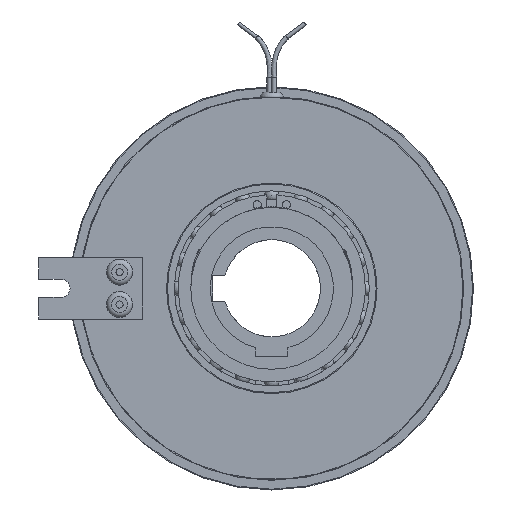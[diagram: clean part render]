
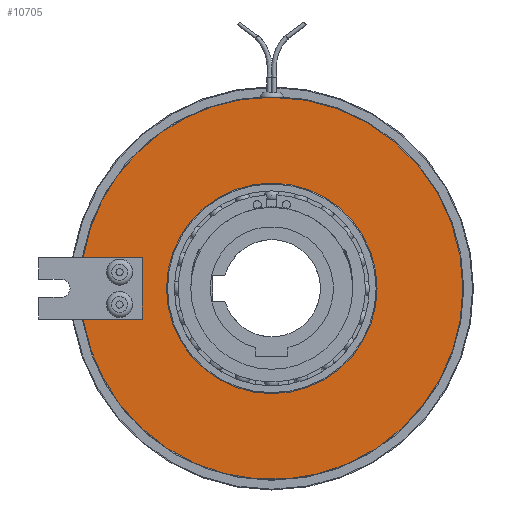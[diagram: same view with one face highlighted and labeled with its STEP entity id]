
A CAD part, left-side view. The second image highlights one B-rep face of the part: STEP entity #10705.
In plain terms, the highlighted planar face has unit normal (-1, 0, 0).
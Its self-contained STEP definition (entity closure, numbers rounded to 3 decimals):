
#621=FACE_BOUND('',#1951,.T.);
#878=PLANE('',#11851);
#1304=FACE_OUTER_BOUND('',#1950,.T.);
#1950=EDGE_LOOP('',(#8781,#8782,#8783,#8784,#8785,#8786));
#1951=EDGE_LOOP('',(#8787,#8788));
#2538=LINE('',#18455,#2996);
#2539=LINE('',#18458,#2997);
#2540=LINE('',#18459,#2998);
#2996=VECTOR('',#14609,10.);
#2997=VECTOR('',#14612,10.);
#2998=VECTOR('',#14613,10.);
#3438=CIRCLE('',#11505,59.);
#3441=CIRCLE('',#11508,59.);
#3680=CIRCLE('',#11852,59.);
#3681=CIRCLE('',#11853,32.5);
#3682=CIRCLE('',#11854,32.5);
#4489=VERTEX_POINT('',#17741);
#4490=VERTEX_POINT('',#17743);
#4492=VERTEX_POINT('',#17747);
#4493=VERTEX_POINT('',#17749);
#4738=VERTEX_POINT('',#18454);
#4739=VERTEX_POINT('',#18457);
#4740=VERTEX_POINT('',#18460);
#4741=VERTEX_POINT('',#18461);
#5826=EDGE_CURVE('',#4490,#4489,#3438,.T.);
#5829=EDGE_CURVE('',#4493,#4492,#3441,.T.);
#6167=EDGE_CURVE('',#4738,#4490,#2538,.T.);
#6168=EDGE_CURVE('',#4489,#4493,#3680,.T.);
#6169=EDGE_CURVE('',#4492,#4739,#2539,.T.);
#6170=EDGE_CURVE('',#4739,#4738,#2540,.T.);
#6171=EDGE_CURVE('',#4740,#4741,#3681,.T.);
#6172=EDGE_CURVE('',#4741,#4740,#3682,.T.);
#8781=ORIENTED_EDGE('',*,*,#6167,.T.);
#8782=ORIENTED_EDGE('',*,*,#5826,.T.);
#8783=ORIENTED_EDGE('',*,*,#6168,.T.);
#8784=ORIENTED_EDGE('',*,*,#5829,.T.);
#8785=ORIENTED_EDGE('',*,*,#6169,.T.);
#8786=ORIENTED_EDGE('',*,*,#6170,.T.);
#8787=ORIENTED_EDGE('',*,*,#6171,.F.);
#8788=ORIENTED_EDGE('',*,*,#6172,.F.);
#10705=ADVANCED_FACE('',(#1304,#621),#878,.T.);
#11505=AXIS2_PLACEMENT_3D('',#17744,#13817,#13818);
#11508=AXIS2_PLACEMENT_3D('',#17750,#13823,#13824);
#11851=AXIS2_PLACEMENT_3D('',#18453,#14607,#14608);
#11852=AXIS2_PLACEMENT_3D('',#18456,#14610,#14611);
#11853=AXIS2_PLACEMENT_3D('',#18462,#14614,#14615);
#11854=AXIS2_PLACEMENT_3D('',#18463,#14616,#14617);
#13817=DIRECTION('center_axis',(-1.,0.,0.));
#13818=DIRECTION('ref_axis',(0.,1.,0.));
#13823=DIRECTION('center_axis',(-1.,0.,0.));
#13824=DIRECTION('ref_axis',(0.,1.,0.));
#14607=DIRECTION('center_axis',(-1.,0.,0.));
#14608=DIRECTION('ref_axis',(0.,0.,
1.));
#14609=DIRECTION('',(0.,1.,0.));
#14610=DIRECTION('center_axis',(-1.,0.,0.));
#14611=DIRECTION('ref_axis',(0.,1.,0.));
#14612=DIRECTION('',(0.,-1.,0.));
#14613=DIRECTION('',(0.,0.,-1.));
#14614=DIRECTION('center_axis',(-1.,0.,0.));
#14615=DIRECTION('ref_axis',(0.,1.,0.));
#14616=DIRECTION('center_axis',(-1.,0.,0.));
#14617=DIRECTION('ref_axis',(0.,1.,0.));
#17741=CARTESIAN_POINT('',(-17.95,-59.,0.));
#17743=CARTESIAN_POINT('',(-17.95,58.23,-9.5));
#17744=CARTESIAN_POINT('Origin',(-17.95,0.,0.));
#17747=CARTESIAN_POINT('',(-17.95,58.23,9.5));
#17749=CARTESIAN_POINT('',(-17.95,0.,59.));
#17750=CARTESIAN_POINT('Origin',(-17.95,0.,0.));
#18453=CARTESIAN_POINT('Origin',(-17.95,45.75,0.));
#18454=CARTESIAN_POINT('',(-17.95,40.,-9.5));
#18455=CARTESIAN_POINT('',(-17.95,42.875,-9.5));
#18456=CARTESIAN_POINT('Origin',(-17.95,0.,0.));
#18457=CARTESIAN_POINT('',(-17.95,40.,9.5));
#18458=CARTESIAN_POINT('',(-17.95,58.875,9.5));
#18459=CARTESIAN_POINT('',(-17.95,40.,4.75));
#18460=CARTESIAN_POINT('',(-17.95,32.5,0.));
#18461=CARTESIAN_POINT('',(-17.95,-32.5,0.));
#18462=CARTESIAN_POINT('Origin',(-17.95,0.,0.));
#18463=CARTESIAN_POINT('Origin',(-17.95,0.,0.));
